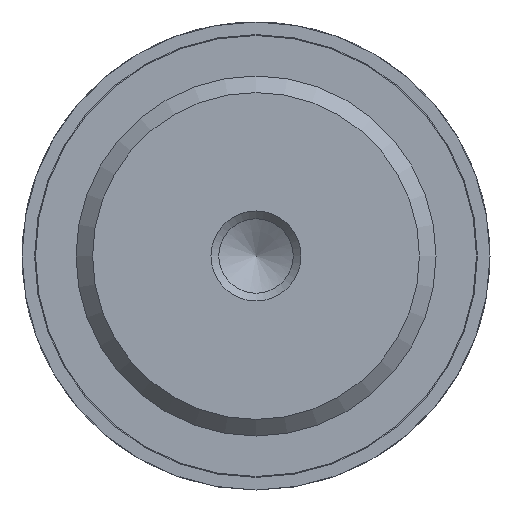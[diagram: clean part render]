
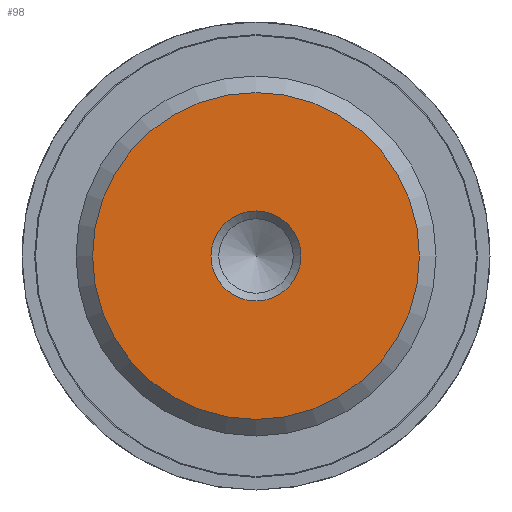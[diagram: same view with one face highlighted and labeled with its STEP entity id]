
A CAD part, front view. The second image highlights one B-rep face of the part: STEP entity #98.
In plain terms, the highlighted planar face has unit normal (0, -1, 0).
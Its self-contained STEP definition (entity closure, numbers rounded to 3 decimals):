
#98 = ADVANCED_FACE( '', ( #166, #167 ), #168, .F. );
#166 = FACE_BOUND( '', #245, .T. );
#167 = FACE_OUTER_BOUND( '', #246, .T. );
#168 = PLANE( '', #247 );
#245 = EDGE_LOOP( '', ( #408 ) );
#246 = EDGE_LOOP( '', ( #409 ) );
#247 = AXIS2_PLACEMENT_3D( '', #410, #411, #412 );
#408 = ORIENTED_EDGE( '', *, *, #474, .F. );
#409 = ORIENTED_EDGE( '', *, *, #478, .T. );
#410 = CARTESIAN_POINT( '', ( 9.08, 0., 0. ) );
#411 = DIRECTION( '', ( 0., 1., 0. ) );
#412 = DIRECTION( '', ( 0., 0., 1. ) );
#474 = EDGE_CURVE( '', #545, #545, #546, .T. );
#478 = EDGE_CURVE( '', #551, #551, #552, .T. );
#545 = VERTEX_POINT( '', #769 );
#546 = CIRCLE( '', #770, 2.5 );
#551 = VERTEX_POINT( '', #775 );
#552 = CIRCLE( '', #776, 9.08 );
#769 = CARTESIAN_POINT( '', ( 2.5, 0., 0. ) );
#770 = AXIS2_PLACEMENT_3D( '', #850, #851, #852 );
#775 = CARTESIAN_POINT( '', ( 0., 0., -9.08 ) );
#776 = AXIS2_PLACEMENT_3D( '', #859, #860, #861 );
#850 = CARTESIAN_POINT( '', ( 0., 0., 0. ) );
#851 = DIRECTION( '', ( 0., -1., 0. ) );
#852 = DIRECTION( '', ( 1., 0., 0. ) );
#859 = CARTESIAN_POINT( '', ( 0., 0., 0. ) );
#860 = DIRECTION( '', ( 0., -1., 0. ) );
#861 = DIRECTION( '', ( 0., 0., -1. ) );
